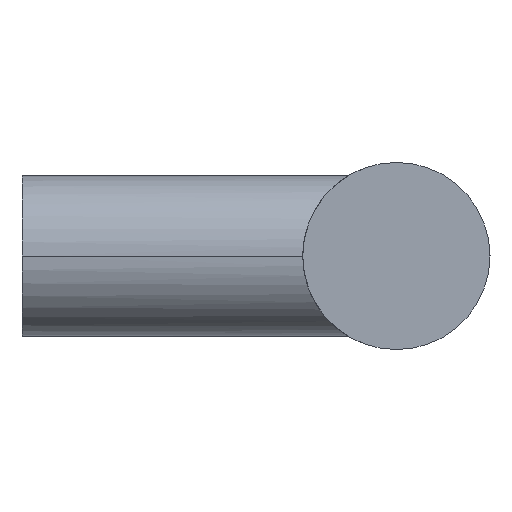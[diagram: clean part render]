
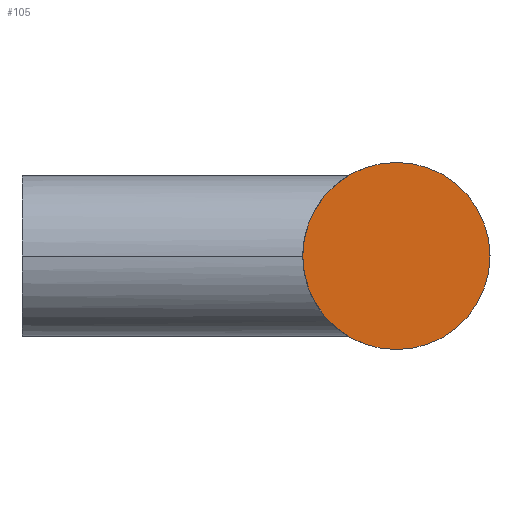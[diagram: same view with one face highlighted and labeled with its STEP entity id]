
A CAD part, left-side view. The second image highlights one B-rep face of the part: STEP entity #105.
In plain terms, the highlighted planar face has unit normal (-1, 0, 0).
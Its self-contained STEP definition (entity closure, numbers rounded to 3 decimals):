
#105 = ADVANCED_FACE( '', ( #263 ), #264, .F. );
#109 = VERTEX_POINT( '', #268 );
#115 = EDGE_CURVE( '', #123, #109, #274, .T. );
#123 = VERTEX_POINT( '', #282 );
#187 = EDGE_CURVE( '', #109, #123, #355, .T. );
#263 = FACE_OUTER_BOUND( '', #436, .T. );
#264 = PLANE( '', #437 );
#268 = CARTESIAN_POINT( '', ( -30., -28., -7. ) );
#274 = CIRCLE( '', #449, 7. );
#282 = CARTESIAN_POINT( '', ( -30., -28., 7. ) );
#355 = CIRCLE( '', #634, 7. );
#436 = EDGE_LOOP( '', ( #764, #765 ) );
#437 = AXIS2_PLACEMENT_3D( '', #766, #767, #768 );
#449 = AXIS2_PLACEMENT_3D( '', #772, #773, #774 );
#634 = AXIS2_PLACEMENT_3D( '', #860, #861, #862 );
#764 = ORIENTED_EDGE( '', *, *, #187, .F. );
#765 = ORIENTED_EDGE( '', *, *, #115, .F. );
#766 = CARTESIAN_POINT( '', ( -30., 0., 0. ) );
#767 = DIRECTION( '', ( 1., 0., 0. ) );
#768 = DIRECTION( '', ( 0., 0., -1. ) );
#772 = CARTESIAN_POINT( '', ( -30., -28., 0. ) );
#773 = DIRECTION( '', ( 1., 0., 0. ) );
#774 = DIRECTION( '', ( 0., 0., -1. ) );
#860 = CARTESIAN_POINT( '', ( -30., -28., 0. ) );
#861 = DIRECTION( '', ( 1., 0., 0. ) );
#862 = DIRECTION( '', ( 0., 0., -1. ) );
